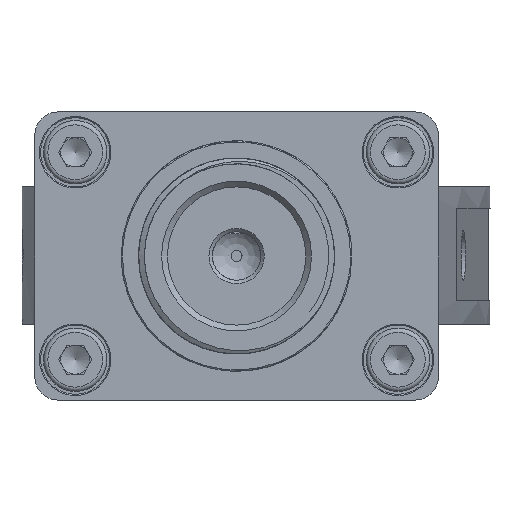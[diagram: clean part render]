
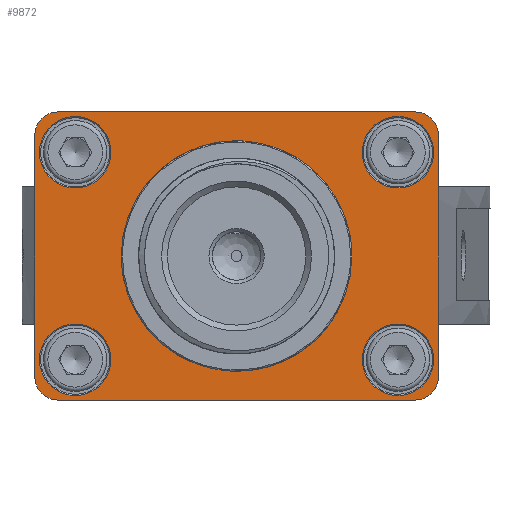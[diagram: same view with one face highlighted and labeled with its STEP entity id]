
A CAD part, front view. The second image highlights one B-rep face of the part: STEP entity #9872.
In plain terms, the highlighted planar face has unit normal (0, -1, 0).
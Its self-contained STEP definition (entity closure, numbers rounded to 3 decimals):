
#9872=ADVANCED_FACE('',(#16661,#16662,#16663,#16664,#16665,#16666),#10981,
 .T.);
#10981=PLANE('',#29766);
#11961=LINE('',#36858,#14277);
#11964=LINE('',#36864,#14280);
#11968=LINE('',#36877,#14284);
#11972=LINE('',#36892,#14288);
#14277=VECTOR('',#31259,1.);
#14280=VECTOR('',#31264,1.);
#14284=VECTOR('',#31274,1.);
#14288=VECTOR('',#31286,1.);
#16661=FACE_BOUND('',#17364,.T.);
#16662=FACE_BOUND('',#17365,.T.);
#16663=FACE_BOUND('',#17366,.T.);
#16664=FACE_BOUND('',#17367,.T.);
#16665=FACE_BOUND('',#17368,.T.);
#16666=FACE_BOUND('',#17369,.T.);
#17364=EDGE_LOOP('',(#19409));
#17365=EDGE_LOOP('',(#19410));
#17366=EDGE_LOOP('',(#19411));
#17367=EDGE_LOOP('',(#19412));
#17368=EDGE_LOOP('',(#19413));
#17369=EDGE_LOOP('',(#19414,#19415,#19416,#19417,#19418,#19419,#19420,#19421));
#19409=ORIENTED_EDGE('',*,*,#26631,.T.);
#19410=ORIENTED_EDGE('',*,*,#26630,.T.);
#19411=ORIENTED_EDGE('',*,*,#26629,.T.);
#19412=ORIENTED_EDGE('',*,*,#26628,.T.);
#19413=ORIENTED_EDGE('',*,*,#26627,.T.);
#19414=ORIENTED_EDGE('',*,*,#26382,.F.);
#19415=ORIENTED_EDGE('',*,*,#26370,.F.);
#19416=ORIENTED_EDGE('',*,*,#26379,.F.);
#19417=ORIENTED_EDGE('',*,*,#26354,.F.);
#19418=ORIENTED_EDGE('',*,*,#26376,.F.);
#19419=ORIENTED_EDGE('',*,*,#26363,.F.);
#19420=ORIENTED_EDGE('',*,*,#26373,.F.);
#19421=ORIENTED_EDGE('',*,*,#26357,.F.);
#24402=VERTEX_POINT('',#36855);
#24403=VERTEX_POINT('',#36857);
#24404=VERTEX_POINT('',#36861);
#24405=VERTEX_POINT('',#36863);
#24406=VERTEX_POINT('',#36867);
#24411=VERTEX_POINT('',#36876);
#24413=VERTEX_POINT('',#36882);
#24418=VERTEX_POINT('',#36891);
#24569=VERTEX_POINT('',#37874);
#24570=VERTEX_POINT('',#37877);
#24571=VERTEX_POINT('',#37880);
#24572=VERTEX_POINT('',#37883);
#24573=VERTEX_POINT('',#37886);
#26354=EDGE_CURVE('',#24403,#24402,#11961,.T.);
#26357=EDGE_CURVE('',#24405,#24404,#11964,.T.);
#26363=EDGE_CURVE('',#24411,#24406,#11968,.T.);
#26370=EDGE_CURVE('',#24418,#24413,#11972,.T.);
#26373=EDGE_CURVE('',#24404,#24411,#29093,.T.);
#26376=EDGE_CURVE('',#24406,#24403,#29095,.T.);
#26379=EDGE_CURVE('',#24402,#24418,#29097,.T.);
#26382=EDGE_CURVE('',#24413,#24405,#29099,.T.);
#26627=EDGE_CURVE('',#24569,#24569,#29193,.T.);
#26628=EDGE_CURVE('',#24570,#24570,#29194,.T.);
#26629=EDGE_CURVE('',#24571,#24571,#29195,.T.);
#26630=EDGE_CURVE('',#24572,#24572,#29196,.T.);
#26631=EDGE_CURVE('',#24573,#24573,#29197,.T.);
#29093=CIRCLE('',#29528,2.);
#29095=CIRCLE('',#29531,2.);
#29097=CIRCLE('',#29534,2.);
#29099=CIRCLE('',#29537,2.);
#29193=CIRCLE('',#29756,10.);
#29194=CIRCLE('',#29758,3.1);
#29195=CIRCLE('',#29760,3.1);
#29196=CIRCLE('',#29762,3.1);
#29197=CIRCLE('',#29764,3.1);
#29528=AXIS2_PLACEMENT_3D('',#36897,#31292,#31293);
#29531=AXIS2_PLACEMENT_3D('',#36902,#31299,#31300);
#29534=AXIS2_PLACEMENT_3D('',#36907,#31306,#31307);
#29537=AXIS2_PLACEMENT_3D('',#36912,#31313,#31314);
#29756=AXIS2_PLACEMENT_3D('',#37873,#31880,#31881);
#29758=AXIS2_PLACEMENT_3D('',#37876,#31884,#31885);
#29760=AXIS2_PLACEMENT_3D('',#37879,#31888,#31889);
#29762=AXIS2_PLACEMENT_3D('',#37882,#31892,#31893);
#29764=AXIS2_PLACEMENT_3D('',#37885,#31896,#31897);
#29766=AXIS2_PLACEMENT_3D('',#37888,#31900,#31901);
#31259=DIRECTION('',(0.,0.,-1.));
#31264=DIRECTION('',(0.,0.,1.));
#31274=DIRECTION('',(1.,0.,0.));
#31286=DIRECTION('',(-1.,0.,0.));
#31292=DIRECTION('',(0.,1.,0.));
#31293=DIRECTION('',(0.,0.,-1.));
#31299=DIRECTION('',(0.,1.,0.));
#31300=DIRECTION('',(0.,0.,-1.));
#31306=DIRECTION('',(0.,1.,0.));
#31307=DIRECTION('',(0.,0.,-1.));
#31313=DIRECTION('',(0.,1.,0.));
#31314=DIRECTION('',(0.,0.,-1.));
#31880=DIRECTION('',(0.,1.,0.));
#31881=DIRECTION('',(1.,0.,0.));
#31884=DIRECTION('',(0.,1.,0.));
#31885=DIRECTION('',(0.,0.,-1.));
#31888=DIRECTION('',(0.,1.,0.));
#31889=DIRECTION('',(0.,0.,-1.));
#31892=DIRECTION('',(0.,1.,0.));
#31893=DIRECTION('',(0.,0.,-1.));
#31896=DIRECTION('',(0.,1.,0.));
#31897=DIRECTION('',(0.,0.,-1.));
#31900=DIRECTION('',(0.,-1.,0.));
#31901=DIRECTION('',(-1.,0.,0.));
#36855=CARTESIAN_POINT('',(26.,-30.675,-18.5));
#36857=CARTESIAN_POINT('',(26.,-30.675,2.5));
#36858=CARTESIAN_POINT('',(26.,-30.675,4.5));
#36861=CARTESIAN_POINT('',(-9.,-30.675,2.5));
#36863=CARTESIAN_POINT('',(-9.,-30.675,-18.5));
#36864=CARTESIAN_POINT('',(-9.,-30.675,-20.5));
#36867=CARTESIAN_POINT('',(24.,-30.675,4.5));
#36876=CARTESIAN_POINT('',(-7.,-30.675,4.5));
#36877=CARTESIAN_POINT('',(-9.,-30.675,4.5));
#36882=CARTESIAN_POINT('',(-7.,-30.675,-20.5));
#36891=CARTESIAN_POINT('',(24.,-30.675,-20.5));
#36892=CARTESIAN_POINT('',(26.,-30.675,-20.5));
#36897=CARTESIAN_POINT('',(-7.,-30.675,2.5));
#36902=CARTESIAN_POINT('',(24.,-30.675,2.5));
#36907=CARTESIAN_POINT('',(24.,-30.675,-18.5));
#36912=CARTESIAN_POINT('',(-7.,-30.675,-18.5));
#37873=CARTESIAN_POINT('',(8.5,-30.675,-8.));
#37874=CARTESIAN_POINT('',(18.5,-30.675,-8.));
#37876=CARTESIAN_POINT('',(22.5,-30.675,-17.));
#37877=CARTESIAN_POINT('',(22.5,-30.675,-20.1));
#37879=CARTESIAN_POINT('',(22.5,-30.675,1.));
#37880=CARTESIAN_POINT('',(22.5,-30.675,-2.1));
#37882=CARTESIAN_POINT('',(-5.5,-30.675,1.));
#37883=CARTESIAN_POINT('',(-5.5,-30.675,-2.1));
#37885=CARTESIAN_POINT('',(-5.5,-30.675,-17.));
#37886=CARTESIAN_POINT('',(-5.5,-30.675,-20.1));
#37888=CARTESIAN_POINT('',(-5.5,-30.675,-17.));
